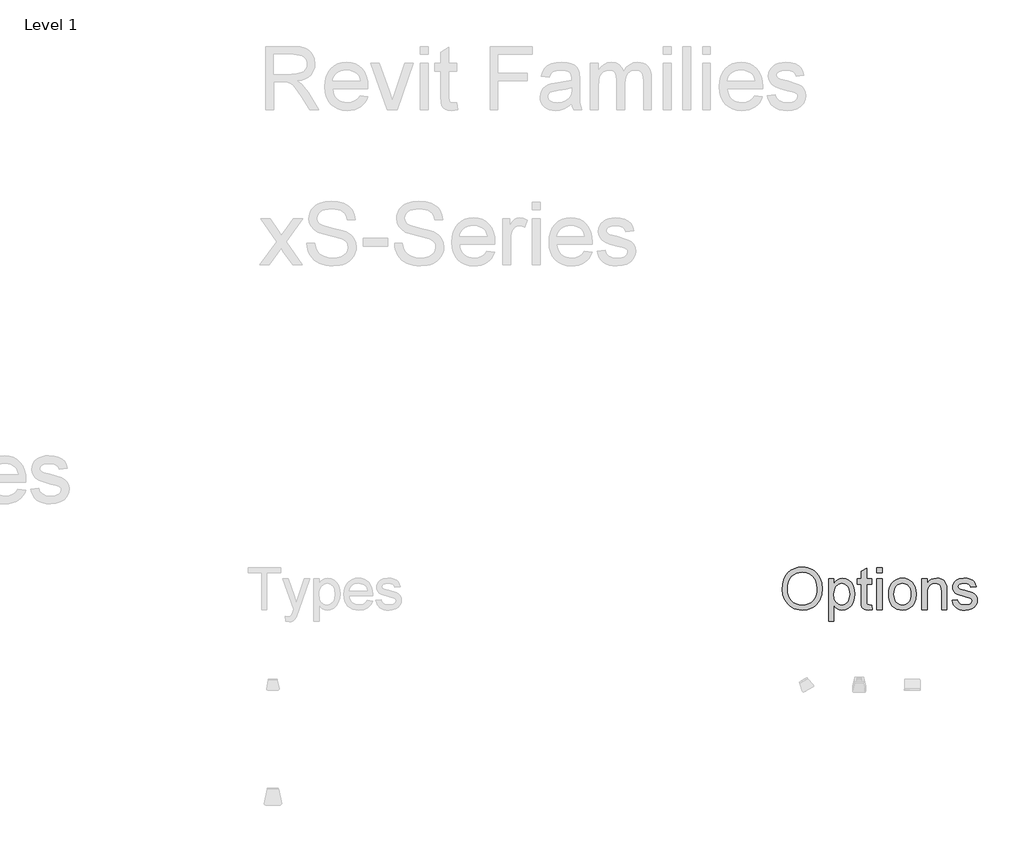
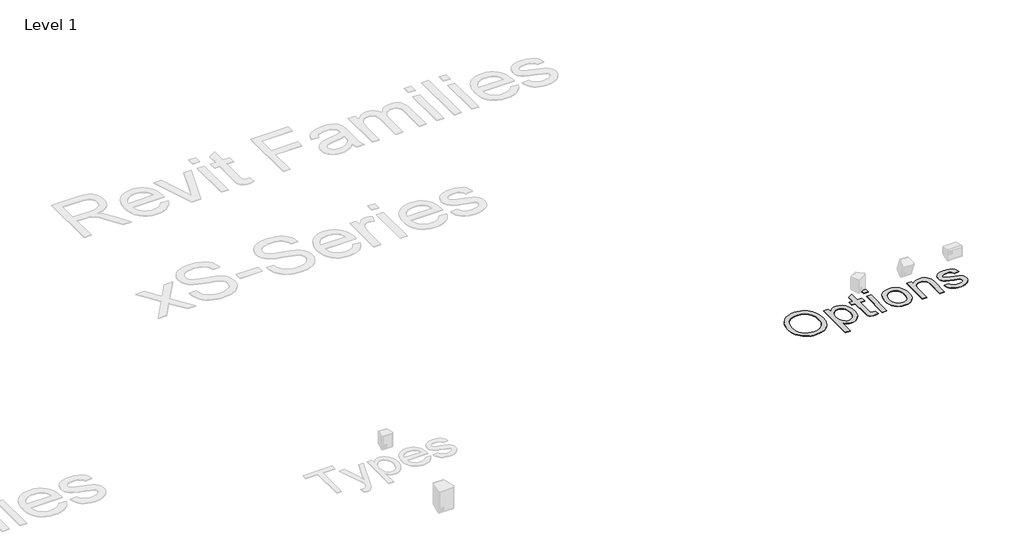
# One storey, part 12 of 12: 2 proxies.
"""IFC4 building model written with IfcOpenShell, lengths in millimetres."""

from ifc_helpers import new_model, si_unit, origin, origin_with_axes, place, context, project, spatial, polyline, outline, extrude, element, save

model = new_model("IFC4")

# Units and contexts
model_context = context("Model", 3, world=origin())
ifc_project = project(units=[si_unit("LENGTHUNIT", "METRE", prefix="MILLI")], contexts=[model_context])

# Site, building, storey
site = spatial("IfcSite", under=ifc_project)
building = spatial("IfcBuilding", under=site)
storey = spatial("IfcBuildingStorey", under=building, Name="Level 1", Elevation=0.0)

# Proxies
placement = place(None, origin())
element("IfcBuildingElementProxy", 1, Name="400mm Arial", ObjectType="400mm Arial", at=placement, inside=storey, context=model_context, shape_type="SweptSolid", body=[
    extrude(outline(polyline([(-6462.261333, 17542.0194987), (-6458.9974836, 17587.9704339), (-6449.2059353, 17628.6489968), (-6432.8866881, 17664.0551876), (-6410.0397421, 17694.1890063), (-6382.0340011, 17718.2494348), (-6350.238369, 17735.4354552), (-6314.6528458, 17745.7470674), (-6275.2774315, 17749.1842715), (-6248.9215484, 17747.57028), (-6223.892725, 17742.7283055), (-6200.1909613, 17734.6583482), (-6177.8162572, 17723.3604078), (-6157.3962762, 17709.1752161), (-6139.5586815, 17692.4435044), (-6124.3034732, 17673.1652729), (-6111.6306512, 17651.3405215), (-6101.671726, 17627.4654031), (-6094.558208, 17602.0360707), (-6088.8673936, 17546.5147639), (-6094.8570953, 17490.2522165), (-6102.3442224, 17464.4701971), (-6112.8262004, 17440.2543472), (-6126.0549528, 17418.2442857), (-6141.7824031, 17399.0796313), (-6160.0085513, 17382.7603841), (-6180.7333974, 17369.2865442), (-6226.4153339, 17351.2098396), (-6275.5643633, 17345.1842715), (-6302.3805328, 17346.8490738), (-6327.7381322, 17351.8434807), (-6351.6371616, 17360.1674923), (-6374.0776209, 17371.8211086), (-6394.473691, 17386.3530096), (-6412.2395527, 17403.3118756), (-6427.3752061, 17422.6977066), (-6439.8806512, 17444.5105025), (-6456.6661625, 17491.91403), (-6462.261333, 17542.0194987)]), holes=[polyline([(-6413.291636, 17541.541279), (-6410.843749, 17509.0761393), (-6403.5000877, 17480.2574249), (-6391.2606524, 17455.0851356), (-6374.1254429, 17433.5592715), (-6353.2959862, 17416.3194514), (-6329.9738093, 17404.0052942), (-6304.1589123, 17396.6167999), (-6275.8512951, 17394.1539684), (-6247.0594805, 17396.6407108), (-6220.9397184, 17404.1009381), (-6197.4920089, 17416.5346502), (-6176.7163519, 17433.9418472), (-6159.7066751, 17455.92202), (-6147.5569059, 17482.0746597), (-6140.2670444, 17512.3997662), (-6137.8370906, 17546.8973396), (-6141.9976019, 17590.2479552), (-6154.479136, 17627.7164684), (-6174.9588946, 17658.3583955), (-6203.1140792, 17681.2292525), (-6237.0796332, 17695.468244), (-6274.9904997, 17700.2145745), (-6302.3147776, 17697.9280866), (-6327.6663993, 17691.0686228), (-6351.0453647, 17679.6361831), (-6372.4516739, 17663.6307677), (-6390.3191573, 17642.2812471), (-6403.0816455, 17614.8164921), (-6410.7391384, 17581.2365027), (-6413.291636, 17541.541279)])]), origin_with_axes(), (0.0, 0.0, 1.0), 5.0),
    extrude(outline(polyline([(-6027.6552724, 17241.1236654), (-6027.6552724, 17639.0024533), (-5978.6855754, 17639.0024533), (-5978.6855754, 17590.9891957), (-5962.7130375, 17614.6730262), (-5944.8276209, 17631.590048), (-5923.9772421, 17641.740261), (-5899.1098179, 17645.1236654), (-5865.9931038, 17640.3892904), (-5837.0369012, 17626.1861654), (-5813.4606701, 17603.3750858), (-5796.4838709, 17572.8168472), (-5786.2260584, 17536.7351711), (-5782.8067875, 17497.353779), (-5786.6684116, 17455.4736891), (-5798.2532838, 17418.0171313), (-5817.1907838, 17386.885029), (-5843.1102913, 17363.9783055), (-5873.2979097, 17349.88278), (-5905.0397421, 17345.1842715), (-5927.5519343, 17348.328566), (-5947.6491171, 17357.7614495), (-5964.8530707, 17372.000441), (-5978.6855754, 17389.5630593), (-5978.6855754, 17241.1236654), (-6027.6552724, 17241.1236654)]), holes=[polyline([(-5978.6855754, 17492.8585139), (-5973.3892923, 17448.9579457), (-5966.7689384, 17431.9572355), (-5957.5004429, 17418.2562411), (-5934.0557222, 17400.1795366), (-5920.6386708, 17395.6603605), (-5906.0918254, 17394.1539684), (-5891.3357589, 17395.7141602), (-5877.6736199, 17400.3947355), (-5853.6311247, 17419.1170366), (-5844.0697196, 17433.3141839), (-5837.2401446, 17450.9425574), (-5831.7764845, 17496.4929836), (-5837.1086341, 17540.1544419), (-5843.7738212, 17557.2866625), (-5853.105083, 17571.2865442), (-5876.5139372, 17589.9371124), (-5889.778556, 17594.5997544), (-5904.0833027, 17596.1539684), (-5918.3432163, 17594.5011216), (-5931.7602677, 17589.5425811), (-5956.0657838, 17569.7084192), (-5965.9619426, 17554.9882191), (-5973.0306275, 17537.2731682), (-5977.2718384, 17516.5632665), (-5978.6855754, 17492.8585139)])]), origin_with_axes(), (0.0, 0.0, 1.0), 5.0),
    extrude(outline(polyline([(-5623.6552724, 17392.1454457), (-5617.5340603, 17349.8708245), (-5654.1656891, 17345.1842715), (-5677.6701872, 17347.2167052), (-5695.1969391, 17353.3140063), (-5707.5828292, 17362.7110233), (-5715.6647421, 17374.6426048), (-5720.1121853, 17395.1343188), (-5721.5946663, 17430.2117336), (-5721.5946663, 17590.0327563), (-5758.3219391, 17590.0327563), (-5758.3219391, 17639.0024533), (-5721.5946663, 17639.0024533), (-5721.5946663, 17708.918173), (-5672.6249694, 17737.7069987), (-5672.6249694, 17639.0024533), (-5623.6552724, 17639.0024533), (-5623.6552724, 17590.0327563), (-5672.6249694, 17590.0327563), (-5672.6249694, 17431.6463927), (-5670.042583, 17406.3963927), (-5661.6737383, 17397.4536843), (-5644.9838709, 17394.1539684), (-5623.6552724, 17392.1454457)])), origin_with_axes(), (0.0, 0.0, 1.0), 5.0),
    extrude(outline(polyline([(-5574.6855754, 17351.3054836), (-5574.6855754, 17639.0024533), (-5525.7158785, 17639.0024533), (-5525.7158785, 17351.3054836), (-5574.6855754, 17351.3054836)])), origin_with_axes(), (0.0, 0.0, 1.0), 5.0),
    extrude(outline(polyline([(-5574.6855754, 17694.0933624), (-5574.6855754, 17743.0630593), (-5525.7158785, 17743.0630593), (-5525.7158785, 17694.0933624), (-5574.6855754, 17694.0933624)])), origin_with_axes(), (0.0, 0.0, 1.0), 5.0),
    extrude(outline(polyline([(-5464.5037572, 17495.1539684), (-5461.8556157, 17532.4132606), (-5453.911191, 17564.5197355), (-5440.6704831, 17591.4733931), (-5422.1334921, 17613.2742336), (-5403.4709684, 17627.20836), (-5382.871655, 17637.1613074), (-5360.3355518, 17643.1330759), (-5335.8626588, 17645.1236654), (-5308.8462348, 17642.6996893), (-5284.4181749, 17635.427761), (-5262.5784791, 17623.3078806), (-5243.3271474, 17606.340048), (-5227.6146415, 17585.0981268), (-5216.391423, 17560.1559807), (-5209.6574919, 17531.5136098), (-5207.4128482, 17499.1710139), (-5211.3820716, 17449.6991862), (-5223.2897421, 17412.0393851), (-5242.7891502, 17383.8363785), (-5269.5335868, 17362.7349343), (-5301.2993302, 17349.5719372), (-5335.8626588, 17345.1842715), (-5363.273614, 17347.5992809), (-5387.9288283, 17354.8443093), (-5409.8283015, 17366.9193567), (-5428.9720338, 17383.824423), (-5444.5171628, 17405.2725764), (-5455.6208264, 17430.9768851), (-5462.2830245, 17460.9373491), (-5464.5037572, 17495.1539684)]), holes=[polyline([(-5415.5340603, 17495.2496124), (-5414.1173344, 17471.4970378), (-5409.8671569, 17450.9306019), (-5402.7835276, 17433.5503048), (-5392.8664466, 17419.3561465), (-5380.8033548, 17408.3301936), (-5367.2816929, 17400.4545129), (-5352.3014608, 17395.7291045), (-5335.8626588, 17394.1539684), (-5319.5075451, 17395.7380712), (-5304.5870906, 17400.4903794), (-5291.1012951, 17408.4108931), (-5279.0501588, 17419.4996124), (-5269.1330778, 17433.8342478), (-5262.0494485, 17451.4925101), (-5257.799271, 17472.4743993), (-5256.3825451, 17496.7799154), (-5257.8082376, 17519.7792939), (-5262.085315, 17539.8077326), (-5269.2137774, 17556.8652314), (-5279.1936247, 17570.9517904), (-5291.2895941, 17581.9777433), (-5304.766423, 17589.8534239), (-5319.6241112, 17594.5788323), (-5335.8626588, 17596.1539684), (-5352.3014608, 17594.58481), (-5367.2816929, 17589.8773349), (-5380.8033548, 17582.031543), (-5392.8664466, 17571.0474343), (-5402.7835276, 17556.8951202), (-5409.8671569, 17539.5447118), (-5414.1173344, 17518.9962092), (-5415.5340603, 17495.2496124)])]), origin_with_axes(), (0.0, 0.0, 1.0), 5.0),
    extrude(outline(polyline([(-5152.3219391, 17351.3054836), (-5152.3219391, 17639.0024533), (-5103.3522421, 17639.0024533), (-5103.3522421, 17598.8319987), (-5086.3395764, 17619.0846029), (-5065.9076398, 17633.5507487), (-5042.0564324, 17642.2304362), (-5014.7859542, 17645.1236654), (-4990.647815, 17642.7923444), (-4968.5421095, 17635.7983813), (-4950.1067402, 17625.0145271), (-4936.9796095, 17611.3135328), (-4928.0727677, 17594.7312648), (-4922.2982648, 17575.3035896), (-4919.7158785, 17527.9598396), (-4919.7158785, 17351.3054836), (-4968.6855754, 17351.3054836), (-4968.6855754, 17521.3604078), (-4970.0963235, 17546.6821408), (-4974.3285679, 17564.6871124), (-4982.1355044, 17577.5870887), (-4994.2703292, 17587.5938358), (-5009.8244249, 17594.0139353), (-5027.8891739, 17596.1539684), (-5056.5704002, 17591.3478605), (-5081.0193822, 17576.9295366), (-5090.7900084, 17565.1593543), (-5097.7690271, 17549.0732393), (-5101.9564384, 17528.6711914), (-5103.3522421, 17503.9532108), (-5103.3522421, 17351.3054836), (-5152.3219391, 17351.3054836)])), origin_with_axes(), (0.0, 0.0, 1.0), 5.0),
    extrude(outline(polyline([(-4870.7461815, 17437.0024533), (-4821.7764845, 17443.1236654), (-4814.0532364, 17422.1776427), (-4799.1088709, 17406.7789684), (-4776.847744, 17397.3102184), (-4747.1742118, 17394.1539684), (-4717.8593444, 17397.0471976), (-4697.2480754, 17405.7268851), (-4685.0534732, 17418.3040631), (-4680.9886057, 17432.8897639), (-4685.0773841, 17445.371298), (-4697.3437194, 17454.8878699), (-4747.7480754, 17468.8518851), (-4821.4895527, 17492.8106919), (-4840.1520764, 17504.8498728), (-4853.6737383, 17520.7865442), (-4861.8871616, 17539.6044893), (-4864.6249694, 17560.2874911), (-4862.4251588, 17579.2608576), (-4855.8257269, 17596.775654), (-4845.4244485, 17612.1384618), (-4831.8190982, 17624.6558624), (-4800.6869959, 17639.1459192), (-4758.5558406, 17645.1236654), (-4726.6824978, 17642.7206114), (-4698.9696663, 17635.5114495), (-4676.6846285, 17624.2015536), (-4661.0946663, 17609.496298), (-4650.7651209, 17590.3077326), (-4644.261333, 17565.5479078), (-4693.23103, 17559.4266957), (-4699.4120196, 17574.8373254), (-4711.6424883, 17586.4461086), (-4730.0419911, 17593.7270035), (-4754.730083, 17596.1539684), (-4782.8494012, 17593.8346029), (-4801.5956133, 17586.8765063), (-4812.1403576, 17576.8338927), (-4815.6552724, 17565.260976), (-4809.8209921, 17551.010029), (-4791.5529997, 17540.2022639), (-4749.3740224, 17529.7770745), (-4677.4976019, 17506.7268851), (-4658.51228, 17495.7039211), (-4644.1178671, 17480.6160896), (-4635.0436483, 17461.4155688), (-4632.0189088, 17438.0545366), (-4635.56969, 17413.9044419), (-4646.2220338, 17391.1890063), (-4663.5694533, 17371.6895982), (-4687.2054618, 17357.1875858), (-4715.7551777, 17348.1851), (-4747.8437194, 17345.1842715), (-4774.1996024, 17346.630886), (-4797.2199031, 17350.9707298), (-4816.9046214, 17358.2038027), (-4833.2537572, 17368.3301048), (-4846.6080423, 17381.3018141), (-4857.308208, 17397.0711086), (-4865.3542544, 17415.6379883), (-4870.7461815, 17437.0024533)])), origin_with_axes(), (0.0, 0.0, 1.0), 5.0),
])
element("IfcBuildingElementProxy", 2, Name="600mm Arial", ObjectType="600mm Arial", at=placement, inside=storey, context=model_context, shape_type="SweptSolid", body=[
    extrude(outline(polyline([(-11309.2935955, 22041.6162982), (-11309.2935955, 22632.385529), (-11054.7262878, 22632.385529), (-10986.3068167, 22628.401154), (-10936.5291724, 22616.448029), (-10917.3194369, 22606.9468271), (-10900.1469609, 22594.3807213), (-10885.0117446, 22578.7497117), (-10871.9137878, 22560.0537982), (-10861.3443768, 22539.2980891), (-10853.7947974, 22517.4876924), (-10847.755134, 22470.7028367), (-10850.2566364, 22440.3602886), (-10857.7611436, 22412.5057213), (-10870.2686556, 22387.1391347), (-10887.7791724, 22364.260529), (-10910.5180547, 22344.6000722), (-10938.7106628, 22328.8879328), (-10972.356997, 22317.1241107), (-11011.4570571, 22309.3086059), (-10987.1181148, 22293.4071636), (-10969.4859032, 22277.7220674), (-10909.630134, 22201.7124521), (-10811.1205186, 22041.6162982), (-10896.9378263, 22041.6162982), (-10973.8128263, 22164.0682213), (-11029.3416724, 22245.1259136), (-11049.9847013, 22268.7617309), (-11068.3560955, 22283.4191828), (-11103.4762878, 22297.4816828), (-11146.3128263, 22300.0778367), (-11235.4474417, 22300.0778367), (-11235.4474417, 22041.6162982), (-11309.2935955, 22041.6162982)]), holes=[polyline([(-11235.4474417, 22373.9239905), (-11070.1589801, 22373.9239905), (-11022.6890282, 22376.5381732), (-10985.8560955, 22384.3807213), (-10958.1277301, 22397.9744713), (-10937.9714801, 22417.8422597), (-10925.6938359, 22441.8747117), (-10921.6012878, 22467.9624521), (-10923.5529104, 22486.8476684), (-10929.4077782, 22503.9840867), (-10939.1658912, 22519.3717069), (-10952.8272494, 22533.010529), (-10970.7073575, 22544.1793992), (-10993.1217205, 22552.1571636), (-11020.0703383, 22556.9438222), (-11051.5532109, 22558.5393751), (-11235.4474417, 22558.5393751), (-11235.4474417, 22373.9239905)])]), origin_with_axes(), (0.0, 0.0, 1.0), 5.0),
    extrude(outline(polyline([(-10424.005134, 22170.8470674), (-10351.6012878, 22161.6162982), (-10362.7025498, 22132.6168992), (-10377.6890282, 22107.0610097), (-10396.5607229, 22084.9486299), (-10419.317634, 22066.2797597), (-10445.7253864, 22051.4510338), (-10475.5496051, 22040.8590867), (-10508.7902902, 22034.5039184), (-10545.4474417, 22032.385529), (-10591.2677542, 22036.0408775), (-10632.0940763, 22047.0069232), (-10667.926408, 22065.283666), (-10698.7647494, 22090.8711059), (-10723.5634273, 22123.0571035), (-10741.2767686, 22161.1295194), (-10751.9047734, 22205.0883535), (-10755.4474417, 22254.9336059), (-10751.8687157, 22306.4690626), (-10741.1325378, 22351.8927405), (-10723.238908, 22391.2046396), (-10698.1878263, 22424.4047597), (-10667.4306148, 22450.7809617), (-10632.4185955, 22469.6211059), (-10593.1517686, 22480.9251924), (-10549.630134, 22484.6932213), (-10507.5102422, 22480.9342069), (-10469.4197974, 22469.6571636), (-10435.3587998, 22450.8620915), (-10405.3272494, 22424.5489905), (-10380.8125258, 22391.4209857), (-10363.302009, 22352.1812021), (-10352.7956989, 22306.8296396), (-10349.2935955, 22255.3662982), (-10349.7262878, 22235.4624521), (-10681.6012878, 22235.4624521), (-10677.3239441, 22205.994303), (-10668.8188359, 22180.1860097), (-10656.0859633, 22158.0375722), (-10639.1253263, 22139.5489905), (-10618.8744248, 22124.9726684), (-10596.270759, 22114.5610097), (-10571.3143287, 22108.3140146), (-10544.005134, 22106.2316828), (-10504.7022494, 22110.0898559), (-10471.6012878, 22121.6643751), (-10444.7022494, 22141.6763944), (-10424.005134, 22170.8470674)]), holes=[polyline([(-10681.6012878, 22309.3086059), (-10423.1397494, 22309.3086059), (-10433.1277301, 22348.323029), (-10441.7184753, 22363.6655771), (-10452.7070571, 22376.2316828), (-10472.8452782, 22391.3759136), (-10495.7599417, 22402.1932213), (-10521.4510474, 22408.6836059), (-10549.9185955, 22410.8470674), (-10575.8846412, 22409.1208054), (-10599.6962398, 22403.9420194), (-10621.3533912, 22395.3107093), (-10640.8560955, 22383.2268751), (-10657.2217806, 22368.2494112), (-10669.4678744, 22350.9372117), (-10677.5943768, 22331.2902766), (-10681.6012878, 22309.3086059)])]), origin_with_axes(), (0.0, 0.0, 1.0), 5.0),
    extrude(outline(polyline([(-10169.005134, 22041.6162982), (-10321.6012878, 22475.4624521), (-10243.4282109, 22475.4624521), (-10150.9762878, 22215.5586059), (-10123.1397494, 22128.1547597), (-10095.880134, 22210.6547597), (-10002.8512878, 22475.4624521), (-9924.6782109, 22475.4624521), (-10075.3993648, 22041.6162982), (-10169.005134, 22041.6162982)])), origin_with_axes(), (0.0, 0.0, 1.0), 5.0),
    extrude(outline(polyline([(-9860.0628263, 22041.6162982), (-9860.0628263, 22475.4624521), (-9786.2166724, 22475.4624521), (-9786.2166724, 22041.6162982), (-9860.0628263, 22041.6162982)])), origin_with_axes(), (0.0, 0.0, 1.0), 5.0),
    extrude(outline(polyline([(-9860.0628263, 22558.5393751), (-9860.0628263, 22632.385529), (-9786.2166724, 22632.385529), (-9786.2166724, 22558.5393751), (-9860.0628263, 22558.5393751)])), origin_with_axes(), (0.0, 0.0, 1.0), 5.0),
    extrude(outline(polyline([(-9518.5243648, 22103.2028367), (-9509.2935955, 22039.4528367), (-9564.5339801, 22032.385529), (-9599.9786917, 22035.4504328), (-9626.4089801, 22044.6451444), (-9645.0868648, 22058.8158174), (-9657.2743648, 22076.8086059), (-9663.9810955, 22107.7100482), (-9666.2166724, 22160.6066828), (-9666.2166724, 22401.6162982), (-9721.6012878, 22401.6162982), (-9721.6012878, 22475.4624521), (-9666.2166724, 22475.4624521), (-9666.2166724, 22580.8951444), (-9592.3705186, 22624.3086059), (-9592.3705186, 22475.4624521), (-9518.5243648, 22475.4624521), (-9518.5243648, 22401.6162982), (-9592.3705186, 22401.6162982), (-9592.3705186, 22162.7701444), (-9588.4762878, 22124.6932213), (-9575.8560955, 22111.2076444), (-9565.2010474, 22107.4756732), (-9550.6878263, 22106.2316828), (-9518.5243648, 22103.2028367)])), origin_with_axes(), (0.0, 0.0, 1.0), 5.0),
    extrude(outline(polyline([(-9204.6782109, 22041.6162982), (-9204.6782109, 22632.385529), (-8807.755134, 22632.385529), (-8807.755134, 22558.5393751), (-9130.8320571, 22558.5393751), (-9130.8320571, 22383.1547597), (-8853.9089801, 22383.1547597), (-8853.9089801, 22309.3086059), (-9130.8320571, 22309.3086059), (-9130.8320571, 22041.6162982), (-9204.6782109, 22041.6162982)])), origin_with_axes(), (0.0, 0.0, 1.0), 5.0),
    extrude(outline(polyline([(-8438.5243648, 22097.0009136), (-8473.8068167, 22066.7485097), (-8510.1349417, 22046.9528367), (-8548.3380667, 22036.0273559), (-8589.2455186, 22032.385529), (-8622.1256268, 22034.5760338), (-8650.958259, 22041.1475482), (-8675.7434152, 22052.1000722), (-8696.4810955, 22067.4336059), (-8712.855795, 22086.1745915), (-8724.552009, 22107.3494713), (-8731.5697373, 22130.9582453), (-8733.9089801, 22157.0009136), (-8730.3753263, 22187.6138944), (-8719.7743648, 22215.4143751), (-8703.4222013, 22239.2124521), (-8682.6349417, 22257.8182213), (-8658.2058551, 22271.8807213), (-8630.9282109, 22282.0489905), (-8567.0339801, 22293.1547597), (-8491.5291724, 22304.8374521), (-8438.9570571, 22318.5393751), (-8438.5243648, 22334.9816828), (-8443.6084994, 22367.9384136), (-8449.9636676, 22380.1439424), (-8458.8609032, 22389.5009136), (-8474.239509, 22398.8398559), (-8492.9714801, 22405.510529), (-8540.4955186, 22410.8470674), (-8584.4859032, 22407.2953847), (-8615.2070571, 22396.6403367), (-8636.1565763, 22376.9348078), (-8650.8320571, 22346.2316828), (-8724.6782109, 22355.4624521), (-8711.8597013, 22395.8470674), (-8692.7310955, 22427.5778367), (-8665.5075378, 22451.8446636), (-8628.4041724, 22469.8374521), (-8583.0255667, 22480.979279), (-8530.9762878, 22484.6932213), (-8481.0544128, 22481.4119713), (-8441.4810955, 22471.5682213), (-8411.6433551, 22456.7665386), (-8390.9282109, 22438.6114905), (-8377.1902301, 22416.1655771), (-8368.2839801, 22388.4912982), (-8364.6782109, 22323.8759136), (-8364.6782109, 22232.0009136), (-8360.9282109, 22103.7076444), (-8355.3753263, 22071.994904), (-8346.2166724, 22041.6162982), (-8420.0628263, 22041.6162982), (-8431.8897494, 22067.2893751), (-8438.5243648, 22097.0009136)]), holes=[polyline([(-8438.5243648, 22244.6932213), (-8488.1397494, 22232.3975482), (-8557.6589801, 22222.0489905), (-8621.192634, 22210.0778367), (-8637.7250859, 22201.8927405), (-8649.9666724, 22190.6066828), (-8657.5387878, 22177.0850482), (-8660.0628263, 22162.1932213), (-8654.5640282, 22140.2340867), (-8638.067634, 22122.2412982), (-8610.9342205, 22110.2340867), (-8573.5243648, 22106.2316828), (-8533.8609032, 22110.6487501), (-8498.8128263, 22123.8999521), (-8470.3993648, 22143.4251924), (-8450.6397494, 22166.6643751), (-8441.8777301, 22190.6066828), (-8438.9570571, 22223.7797597), (-8438.5243648, 22244.6932213)])]), origin_with_axes(), (0.0, 0.0, 1.0), 5.0),
    extrude(outline(polyline([(-8263.1397494, 22041.6162982), (-8263.1397494, 22475.4624521), (-8189.2935955, 22475.4624521), (-8189.2935955, 22404.0682213), (-8167.0820571, 22436.8626924), (-8138.5243648, 22462.5537982), (-8104.5940763, 22479.1583655), (-8066.2647494, 22484.6932213), (-8025.1950378, 22479.0501924), (-8007.7160715, 22471.9964064), (-7992.2743648, 22462.1211059), (-7967.6830186, 22435.0237501), (-7951.6012878, 22398.8759136), (-7924.6842205, 22436.4209857), (-7893.9810955, 22463.2388944), (-7859.4919128, 22479.3296396), (-7821.2166724, 22484.6932213), (-7791.653872, 22482.4621516), (-7765.7058551, 22475.7689424), (-7743.372622, 22464.6135939), (-7724.6541724, 22448.9961059), (-7709.856997, 22428.73619), (-7699.2875859, 22403.6535578), (-7692.9459393, 22373.7482093), (-7690.8320571, 22339.0201444), (-7690.8320571, 22041.6162982), (-7764.6782109, 22041.6162982), (-7764.6782109, 22307.2893751), (-7766.3909513, 22344.1223078), (-7771.5291724, 22368.948029), (-7781.1565763, 22385.9492309), (-7796.3368648, 22399.3086059), (-7815.8621051, 22407.9624521), (-7838.5243648, 22410.8470674), (-7859.4513479, 22408.9991107), (-7878.5303744, 22403.4552405), (-7895.7614441, 22394.2154569), (-7911.1445571, 22381.2797597), (-7923.7962998, 22364.2695434), (-7932.833259, 22342.8062021), (-7938.2554345, 22316.8897357), (-7940.0628263, 22286.5201444), (-7940.0628263, 22041.6162982), (-8013.9089801, 22041.6162982), (-8013.9089801, 22315.510529), (-8018.1818167, 22357.2653367), (-8031.0003263, 22387.0489905), (-8040.9116845, 22397.4606492), (-8053.5544128, 22404.8975482), (-8068.9285114, 22409.3596876), (-8087.0339801, 22410.8470674), (-8115.4834994, 22406.8807213), (-8141.6974417, 22394.9816828), (-8163.3320571, 22375.4384136), (-8178.0435955, 22348.5393751), (-8186.4810955, 22311.2196636), (-8189.2935955, 22260.4143751), (-8189.2935955, 22041.6162982), (-8263.1397494, 22041.6162982)])), origin_with_axes(), (0.0, 0.0, 1.0), 5.0),
    extrude(outline(polyline([(-7580.0628263, 22041.6162982), (-7580.0628263, 22475.4624521), (-7506.2166724, 22475.4624521), (-7506.2166724, 22041.6162982), (-7580.0628263, 22041.6162982)])), origin_with_axes(), (0.0, 0.0, 1.0), 5.0),
    extrude(outline(polyline([(-7580.0628263, 22558.5393751), (-7580.0628263, 22632.385529), (-7506.2166724, 22632.385529), (-7506.2166724, 22558.5393751), (-7580.0628263, 22558.5393751)])), origin_with_axes(), (0.0, 0.0, 1.0), 5.0),
    extrude(outline(polyline([(-7395.4474417, 22041.6162982), (-7395.4474417, 22632.385529), (-7321.6012878, 22632.385529), (-7321.6012878, 22041.6162982), (-7395.4474417, 22041.6162982)])), origin_with_axes(), (0.0, 0.0, 1.0), 5.0),
    extrude(outline(polyline([(-7210.8320571, 22041.6162982), (-7210.8320571, 22475.4624521), (-7136.9859032, 22475.4624521), (-7136.9859032, 22041.6162982), (-7210.8320571, 22041.6162982)])), origin_with_axes(), (0.0, 0.0, 1.0), 5.0),
    extrude(outline(polyline([(-7210.8320571, 22558.5393751), (-7210.8320571, 22632.385529), (-7136.9859032, 22632.385529), (-7136.9859032, 22558.5393751), (-7210.8320571, 22558.5393751)])), origin_with_axes(), (0.0, 0.0, 1.0), 5.0),
    extrude(outline(polyline([(-6722.4666724, 22170.8470674), (-6650.0628263, 22161.6162982), (-6661.1640883, 22132.6168992), (-6676.1505667, 22107.0610097), (-6695.0222614, 22084.9486299), (-6717.7791724, 22066.2797597), (-6744.1869248, 22051.4510338), (-6774.0111436, 22040.8590867), (-6807.2518287, 22034.5039184), (-6843.9089801, 22032.385529), (-6889.7292926, 22036.0408775), (-6930.5556148, 22047.0069232), (-6966.3879465, 22065.283666), (-6997.2262878, 22090.8711059), (-7022.0249657, 22123.0571035), (-7039.7383071, 22161.1295194), (-7050.3663119, 22205.0883535), (-7053.9089801, 22254.9336059), (-7050.3302542, 22306.4690626), (-7039.5940763, 22351.8927405), (-7021.7004465, 22391.2046396), (-6996.6493648, 22424.4047597), (-6965.8921532, 22450.7809617), (-6930.880134, 22469.6211059), (-6891.6133071, 22480.9251924), (-6848.0916724, 22484.6932213), (-6805.9717806, 22480.9342069), (-6767.8813359, 22469.6571636), (-6733.8203383, 22450.8620915), (-6703.7887878, 22424.5489905), (-6679.2740643, 22391.4209857), (-6661.7635474, 22352.1812021), (-6651.2572373, 22306.8296396), (-6647.755134, 22255.3662982), (-6648.1878263, 22235.4624521), (-6980.0628263, 22235.4624521), (-6975.7854825, 22205.994303), (-6967.2803744, 22180.1860097), (-6954.5475018, 22158.0375722), (-6937.5868648, 22139.5489905), (-6917.3359633, 22124.9726684), (-6894.7322974, 22114.5610097), (-6869.7758672, 22108.3140146), (-6842.4666724, 22106.2316828), (-6803.1637878, 22110.0898559), (-6770.0628263, 22121.6643751), (-6743.1637878, 22141.6763944), (-6722.4666724, 22170.8470674)]), holes=[polyline([(-6980.0628263, 22309.3086059), (-6721.6012878, 22309.3086059), (-6731.5892686, 22348.323029), (-6740.1800138, 22363.6655771), (-6751.1685955, 22376.2316828), (-6771.3068167, 22391.3759136), (-6794.2214801, 22402.1932213), (-6819.9125859, 22408.6836059), (-6848.380134, 22410.8470674), (-6874.3461797, 22409.1208054), (-6898.1577782, 22403.9420194), (-6919.8149297, 22395.3107093), (-6939.317634, 22383.2268751), (-6955.6833191, 22368.2494112), (-6967.9294128, 22350.9372117), (-6976.0559152, 22331.2902766), (-6980.0628263, 22309.3086059)])]), origin_with_axes(), (0.0, 0.0, 1.0), 5.0),
    extrude(outline(polyline([(-6601.6012878, 22170.8470674), (-6527.755134, 22180.0778367), (-6523.2929946, 22163.2388944), (-6516.1084994, 22148.4912982), (-6506.2016484, 22135.8350482), (-6493.5724417, 22125.2701444), (-6478.1848215, 22116.9408174), (-6460.0027301, 22110.9912982), (-6415.255134, 22106.2316828), (-6371.0484032, 22110.5946636), (-6353.8669128, 22116.0483896), (-6339.9666724, 22123.6836059), (-6321.5772494, 22142.6499521), (-6315.4474417, 22164.6451444), (-6316.988908, 22174.6150963), (-6321.6133071, 22183.4672597), (-6340.1109032, 22197.8182213), (-6367.7671532, 22207.1932213), (-6416.1205186, 22218.8759136), (-6483.5123455, 22238.3650963), (-6527.3224417, 22255.0057213), (-6555.4654705, 22273.1607694), (-6575.8560955, 22297.1932213), (-6588.2419128, 22325.5706251), (-6592.3705186, 22356.760529), (-6589.0532109, 22385.3723078), (-6579.1012878, 22411.7845674), (-6563.4161917, 22434.9516347), (-6542.8993648, 22453.8278367), (-6522.5087398, 22465.7088463), (-6495.9522494, 22475.6787982), (-6465.2491244, 22482.4396155), (-6432.4185955, 22484.6932213), (-6384.3536917, 22481.0694232), (-6342.5628263, 22470.198029), (-6308.9570571, 22453.1427405), (-6285.4474417, 22430.9672597), (-6269.8705186, 22402.0309617), (-6260.0628263, 22364.6932213), (-6333.9089801, 22355.4624521), (-6343.2298936, 22378.7016347), (-6361.6734032, 22396.2076444), (-6389.4197974, 22407.1872117), (-6426.6493648, 22410.8470674), (-6469.0532109, 22407.3494713), (-6497.3224417, 22396.8566828), (-6513.223884, 22381.7124521), (-6518.5243648, 22364.260529), (-6516.3248455, 22352.9023559), (-6509.7262878, 22342.7701444), (-6498.4402301, 22333.7196636), (-6482.1782109, 22326.4720674), (-6418.5724417, 22310.7509136), (-6310.1830186, 22275.9912982), (-6281.5532109, 22259.3687021), (-6259.8464801, 22236.6162982), (-6246.1625859, 22207.6619713), (-6241.6012878, 22172.4336059), (-6246.9558551, 22136.0153367), (-6263.0195571, 22101.760529), (-6289.1794128, 22072.3554809), (-6324.8224417, 22050.4864905), (-6367.8753263, 22036.9107694), (-6416.2647494, 22032.385529), (-6456.0093407, 22034.5670194), (-6490.723884, 22041.1114905), (-6520.4083792, 22052.0189424), (-6545.0628263, 22067.2893751), (-6565.2010474, 22086.8506732), (-6581.3368648, 22110.6307213), (-6593.4702782, 22138.6295194), (-6601.6012878, 22170.8470674)])), origin_with_axes(), (0.0, 0.0, 1.0), 5.0),
    extrude(outline(polyline([(-11364.6782109, 20583.1547597), (-11206.8897494, 20801.2316828), (-11355.4474417, 21017.0009136), (-11266.6012878, 21017.0009136), (-11194.9185955, 20913.1547597), (-11161.4570571, 20864.1162982), (-11132.4666724, 20904.2124521), (-11050.8320571, 21017.0009136), (-10961.9859032, 21017.0009136), (-11118.0435955, 20801.2316828), (-10967.755134, 20583.1547597), (-11056.6012878, 20583.1547597), (-11147.0339801, 20714.260529), (-11163.6205186, 20738.2028367), (-11275.8320571, 20583.1547597), (-11364.6782109, 20583.1547597)])), origin_with_axes(), (0.0, 0.0, 1.0), 5.0),
    extrude(outline(polyline([(-10921.6012878, 20786.2316828), (-10847.755134, 20786.2316828), (-10839.2815763, 20745.2521155), (-10823.9570571, 20712.3134136), (-10800.0508071, 20686.1715867), (-10765.8320571, 20665.5826444), (-10724.005134, 20652.2232694), (-10677.2743648, 20647.7701444), (-10636.1325378, 20651.1415386), (-10600.1109032, 20661.2557213), (-10570.9222013, 20677.2653367), (-10550.2791724, 20698.323029), (-10538.0015282, 20722.4997117), (-10533.9089801, 20747.8662982), (-10536.973884, 20772.5838463), (-10546.1685955, 20793.948029), (-10564.8464801, 20812.1751924), (-10596.3609032, 20827.4816828), (-10703.8849417, 20855.6787982), (-10774.4678744, 20874.338654), (-10819.630134, 20892.0970674), (-10856.3909513, 20916.9408174), (-10882.442634, 20947.0489905), (-10897.9654705, 20981.7725482), (-10903.1397494, 21020.4624521), (-10901.5396893, 21042.4531372), (-10896.739509, 21063.713654), (-10888.7392085, 21084.2440025), (-10877.5387878, 21104.0441828), (-10863.2644489, 21122.307404), (-10846.0423936, 21138.2268751), (-10825.872622, 21151.8025963), (-10802.755134, 21163.0345674), (-10750.7959994, 21178.1247117), (-10693.2839801, 21183.1547597), (-10630.9762878, 21177.8903367), (-10576.4570571, 21162.0970674), (-10552.6048936, 21150.3332453), (-10531.6734032, 21136.0994713), (-10513.6625859, 21119.3957453), (-10498.5724417, 21100.2220674), (-10486.520158, 21079.1373319), (-10477.6229224, 21056.7004328), (-10471.8807349, 21032.9113703), (-10469.2935955, 21007.7701444), (-10543.1397494, 21007.7701444), (-10548.0796532, 21031.3338463), (-10556.6974417, 21051.8326444), (-10568.9931148, 21069.2665386), (-10584.9666724, 21083.635529), (-10604.9155907, 21094.8675001), (-10629.1373455, 21102.8903367), (-10657.6319369, 21107.7040386), (-10690.3993648, 21109.3086059), (-10724.2124657, 21107.7220674), (-10753.1036917, 21102.9624521), (-10777.0730426, 21095.0297597), (-10796.1205186, 21083.9239905), (-10810.6337398, 21070.5736299), (-10821.0003263, 21055.9071636), (-10827.2202782, 21039.9245915), (-10829.2935955, 21022.6259136), (-10823.4161917, 20994.2485097), (-10805.7839801, 20971.4239905), (-10789.5940763, 20961.2737501), (-10764.1012878, 20951.0153367), (-10685.2070571, 20930.1739905), (-10603.7887878, 20910.3783174), (-10554.5339801, 20893.1066828), (-10512.4366244, 20866.3158174), (-10496.1610835, 20850.5676203), (-10483.067634, 20833.2509136), (-10473.0030306, 20814.4558415), (-10465.8140282, 20794.2725482), (-10460.0628263, 20749.7412982), (-10461.7169729, 20726.6418391), (-10466.6794128, 20704.2184617), (-10474.950146, 20682.471166), (-10486.5291724, 20661.3999521), (-10501.2136676, 20641.8206251), (-10518.8008071, 20624.5489905), (-10539.2905907, 20609.5850482), (-10562.6830186, 20596.9287982), (-10588.2975018, 20586.8641948), (-10615.4534513, 20579.6751924), (-10674.3897494, 20573.9239905), (-10712.1646893, 20575.4744713), (-10746.739509, 20580.1259136), (-10778.1142085, 20587.8783174), (-10806.2887878, 20598.7316828), (-10831.434521, 20612.7040386), (-10853.7226821, 20629.8134136), (-10873.153271, 20650.0598078), (-10889.7262878, 20673.4432213), (-10903.0766484, 20699.2064424), (-10912.8392686, 20726.5922597), (-10919.0141484, 20755.6006732), (-10921.6012878, 20786.2316828)])), origin_with_axes(), (0.0, 0.0, 1.0), 5.0),
    extrude(outline(polyline([(-10395.4474417, 20758.5393751), (-10395.4474417, 20832.385529), (-10164.6782109, 20832.385529), (-10164.6782109, 20758.5393751), (-10395.4474417, 20758.5393751)])), origin_with_axes(), (0.0, 0.0, 1.0), 5.0),
    extrude(outline(polyline([(-10100.0628263, 20786.2316828), (-10026.2166724, 20786.2316828), (-10017.7431148, 20745.2521155), (-10002.4185955, 20712.3134136), (-9978.5123455, 20686.1715867), (-9944.2935955, 20665.5826444), (-9902.4666724, 20652.2232694), (-9855.7359032, 20647.7701444), (-9814.5940763, 20651.1415386), (-9778.5724417, 20661.2557213), (-9749.3837398, 20677.2653367), (-9728.7407109, 20698.323029), (-9716.4630667, 20722.4997117), (-9712.3705186, 20747.8662982), (-9715.4354224, 20772.5838463), (-9724.630134, 20793.948029), (-9743.3080186, 20812.1751924), (-9774.8224417, 20827.4816828), (-9882.3464801, 20855.6787982), (-9952.9294128, 20874.338654), (-9998.0916724, 20892.0970674), (-10034.8524898, 20916.9408174), (-10060.9041724, 20947.0489905), (-10076.427009, 20981.7725482), (-10081.6012878, 21020.4624521), (-10080.0012277, 21042.4531372), (-10075.2010474, 21063.713654), (-10067.200747, 21084.2440025), (-10056.0003263, 21104.0441828), (-10041.7259873, 21122.307404), (-10024.5039321, 21138.2268751), (-10004.3341604, 21151.8025963), (-9981.2166724, 21163.0345674), (-9929.2575378, 21178.1247117), (-9871.7455186, 21183.1547597), (-9809.4378263, 21177.8903367), (-9754.9185955, 21162.0970674), (-9731.0664321, 21150.3332453), (-9710.1349417, 21136.0994713), (-9692.1241244, 21119.3957453), (-9677.0339801, 21100.2220674), (-9664.9816965, 21079.1373319), (-9656.0844609, 21056.7004328), (-9650.3422734, 21032.9113703), (-9647.755134, 21007.7701444), (-9721.6012878, 21007.7701444), (-9726.5411917, 21031.3338463), (-9735.1589801, 21051.8326444), (-9747.4546532, 21069.2665386), (-9763.4282109, 21083.635529), (-9783.3771292, 21094.8675001), (-9807.598884, 21102.8903367), (-9836.0934753, 21107.7040386), (-9868.8609032, 21109.3086059), (-9902.6740042, 21107.7220674), (-9931.5652301, 21102.9624521), (-9955.5345811, 21095.0297597), (-9974.5820571, 21083.9239905), (-9989.0952782, 21070.5736299), (-9999.4618648, 21055.9071636), (-10005.6818167, 21039.9245915), (-10007.755134, 21022.6259136), (-10001.8777301, 20994.2485097), (-9984.2455186, 20971.4239905), (-9968.0556148, 20961.2737501), (-9942.5628263, 20951.0153367), (-9863.6685955, 20930.1739905), (-9782.2503263, 20910.3783174), (-9732.9955186, 20893.1066828), (-9690.8981628, 20866.3158174), (-9674.622622, 20850.5676203), (-9661.5291724, 20833.2509136), (-9651.4645691, 20814.4558415), (-9644.2755667, 20794.2725482), (-9638.5243648, 20749.7412982), (-9640.1785114, 20726.6418391), (-9645.1409513, 20704.2184617), (-9653.4116845, 20682.471166), (-9664.9907109, 20661.3999521), (-9679.6752061, 20641.8206251), (-9697.2623455, 20624.5489905), (-9717.7521292, 20609.5850482), (-9741.1445571, 20596.9287982), (-9766.7590402, 20586.8641948), (-9793.9149898, 20579.6751924), (-9852.8512878, 20573.9239905), (-9890.6262277, 20575.4744713), (-9925.2010474, 20580.1259136), (-9956.575747, 20587.8783174), (-9984.7503263, 20598.7316828), (-10009.8960595, 20612.7040386), (-10032.1842205, 20629.8134136), (-10051.6148095, 20650.0598078), (-10068.1878263, 20673.4432213), (-10081.5381869, 20699.2064424), (-10091.3008071, 20726.5922597), (-10097.4756869, 20755.6006732), (-10100.0628263, 20786.2316828)])), origin_with_axes(), (0.0, 0.0, 1.0), 5.0),
    extrude(outline(polyline([(-9233.2359032, 20712.385529), (-9160.8320571, 20703.1547597), (-9171.9333191, 20674.1553607), (-9186.9197974, 20648.5994713), (-9205.7914922, 20626.4870915), (-9228.5484032, 20607.8182213), (-9254.9561556, 20592.9894953), (-9284.7803744, 20582.3975482), (-9318.0210595, 20576.0423799), (-9354.6782109, 20573.9239905), (-9400.4985234, 20577.5793391), (-9441.3248455, 20588.5453847), (-9477.1571773, 20606.8221275), (-9507.9955186, 20632.4095674), (-9532.7941965, 20664.595565), (-9550.5075378, 20702.6679809), (-9561.1355426, 20746.626815), (-9564.6782109, 20796.4720674), (-9561.0994849, 20848.0075242), (-9550.3633071, 20893.4312021), (-9532.4696773, 20932.7431011), (-9507.4185955, 20965.9432213), (-9476.661384, 20992.3194232), (-9441.6493648, 21011.1595674), (-9402.3825378, 21022.463654), (-9358.8609032, 21026.2316828), (-9316.7410114, 21022.4726684), (-9278.6505667, 21011.1956251), (-9244.5895691, 20992.400553), (-9214.5580186, 20966.0874521), (-9190.043295, 20932.9594472), (-9172.5327782, 20893.7196636), (-9162.0264681, 20848.3681011), (-9158.5243648, 20796.9047597), (-9158.9570571, 20777.0009136), (-9490.8320571, 20777.0009136), (-9486.5547133, 20747.5327646), (-9478.0496051, 20721.7244713), (-9465.3167325, 20699.5760338), (-9448.3560955, 20681.0874521), (-9428.1051941, 20666.5111299), (-9405.5015282, 20656.0994713), (-9380.5450979, 20649.8524761), (-9353.2359032, 20647.7701444), (-9313.9330186, 20651.6283174), (-9280.8320571, 20663.2028367), (-9253.9330186, 20683.2148559), (-9233.2359032, 20712.385529)]), holes=[polyline([(-9490.8320571, 20850.8470674), (-9232.3705186, 20850.8470674), (-9242.3584994, 20889.8614905), (-9250.9492446, 20905.2040386), (-9261.9378263, 20917.7701444), (-9282.0760474, 20932.9143751), (-9304.9907109, 20943.7316828), (-9330.6818167, 20950.2220674), (-9359.1493648, 20952.385529), (-9385.1154104, 20950.659267), (-9408.927009, 20945.4804809), (-9430.5841604, 20936.8491708), (-9450.0868648, 20924.7653367), (-9466.4525498, 20909.7878727), (-9478.6986436, 20892.4756732), (-9486.825146, 20872.8287381), (-9490.8320571, 20850.8470674)])]), origin_with_axes(), (0.0, 0.0, 1.0), 5.0),
    extrude(outline(polyline([(-9084.6782109, 20583.1547597), (-9084.6782109, 21017.0009136), (-9020.0628263, 21017.0009136), (-9020.0628263, 20952.8182213), (-8996.192634, 20990.0297597), (-8974.1974417, 21011.9528367), (-8952.130134, 21022.6619713), (-8928.0435955, 21026.2316828), (-8891.2647494, 21020.5345674), (-8853.9089801, 21003.4432213), (-8878.5724417, 20937.2412982), (-8904.5339801, 20948.5994713), (-8930.4955186, 20952.385529), (-8952.5447974, 20948.7437021), (-8972.2503263, 20937.8182213), (-8988.1697974, 20920.4384136), (-8998.8609032, 20897.4336059), (-9007.8392686, 20856.1836059), (-9010.8320571, 20811.1836059), (-9010.8320571, 20583.1547597), (-9084.6782109, 20583.1547597)])), origin_with_axes(), (0.0, 0.0, 1.0), 5.0),
    extrude(outline(polyline([(-8807.755134, 20583.1547597), (-8807.755134, 21017.0009136), (-8733.9089801, 21017.0009136), (-8733.9089801, 20583.1547597), (-8807.755134, 20583.1547597)])), origin_with_axes(), (0.0, 0.0, 1.0), 5.0),
    extrude(outline(polyline([(-8807.755134, 21100.0778367), (-8807.755134, 21173.9239905), (-8733.9089801, 21173.9239905), (-8733.9089801, 21100.0778367), (-8807.755134, 21100.0778367)])), origin_with_axes(), (0.0, 0.0, 1.0), 5.0),
    extrude(outline(polyline([(-8319.3897494, 20712.385529), (-8246.9859032, 20703.1547597), (-8258.0871652, 20674.1553607), (-8273.0736436, 20648.5994713), (-8291.9453383, 20626.4870915), (-8314.7022494, 20607.8182213), (-8341.1100018, 20592.9894953), (-8370.9342205, 20582.3975482), (-8404.1749056, 20576.0423799), (-8440.8320571, 20573.9239905), (-8486.6523696, 20577.5793391), (-8527.4786917, 20588.5453847), (-8563.3110234, 20606.8221275), (-8594.1493648, 20632.4095674), (-8618.9480426, 20664.595565), (-8636.661384, 20702.6679809), (-8647.2893888, 20746.626815), (-8650.8320571, 20796.4720674), (-8647.2533311, 20848.0075242), (-8636.5171532, 20893.4312021), (-8618.6235234, 20932.7431011), (-8593.5724417, 20965.9432213), (-8562.8152301, 20992.3194232), (-8527.8032109, 21011.1595674), (-8488.536384, 21022.463654), (-8445.0147494, 21026.2316828), (-8402.8948575, 21022.4726684), (-8364.8044128, 21011.1956251), (-8330.7434152, 20992.400553), (-8300.7118648, 20966.0874521), (-8276.1971412, 20932.9594472), (-8258.6866244, 20893.7196636), (-8248.1803143, 20848.3681011), (-8244.6782109, 20796.9047597), (-8245.1109032, 20777.0009136), (-8576.9859032, 20777.0009136), (-8572.7085595, 20747.5327646), (-8564.2034513, 20721.7244713), (-8551.4705787, 20699.5760338), (-8534.5099417, 20681.0874521), (-8514.2590402, 20666.5111299), (-8491.6553744, 20656.0994713), (-8466.6989441, 20649.8524761), (-8439.3897494, 20647.7701444), (-8400.0868648, 20651.6283174), (-8366.9859032, 20663.2028367), (-8340.0868648, 20683.2148559), (-8319.3897494, 20712.385529)]), holes=[polyline([(-8576.9859032, 20850.8470674), (-8318.5243648, 20850.8470674), (-8328.5123455, 20889.8614905), (-8337.1030907, 20905.2040386), (-8348.0916724, 20917.7701444), (-8368.2298936, 20932.9143751), (-8391.1445571, 20943.7316828), (-8416.8356628, 20950.2220674), (-8445.3032109, 20952.385529), (-8471.2692566, 20950.659267), (-8495.0808551, 20945.4804809), (-8516.7380066, 20936.8491708), (-8536.2407109, 20924.7653367), (-8552.606396, 20909.7878727), (-8564.8524898, 20892.4756732), (-8572.9789922, 20872.8287381), (-8576.9859032, 20850.8470674)])]), origin_with_axes(), (0.0, 0.0, 1.0), 5.0),
    extrude(outline(polyline([(-8198.5243648, 20712.385529), (-8124.6782109, 20721.6162982), (-8120.2160715, 20704.7773559), (-8113.0315763, 20690.0297597), (-8103.1247253, 20677.3735097), (-8090.4955186, 20666.8086059), (-8075.1078984, 20658.479279), (-8056.9258071, 20652.5297597), (-8012.1782109, 20647.7701444), (-7967.9714801, 20652.1331251), (-7950.7899898, 20657.5868511), (-7936.8897494, 20665.2220674), (-7918.5003263, 20684.1884136), (-7912.3705186, 20706.1836059), (-7913.9119849, 20716.1535578), (-7918.536384, 20725.0057213), (-7937.0339801, 20739.3566828), (-7964.6902301, 20748.7316828), (-8013.0435955, 20760.4143751), (-8080.4354224, 20779.9035578), (-8124.2455186, 20796.5441828), (-8152.3885474, 20814.6992309), (-8172.7791724, 20838.7316828), (-8185.1649898, 20867.1090867), (-8189.2935955, 20898.2989905), (-8185.9762878, 20926.9107694), (-8176.0243648, 20953.323029), (-8160.3392686, 20976.4900963), (-8139.8224417, 20995.3662982), (-8119.4318167, 21007.2473078), (-8092.8753263, 21017.2172597), (-8062.1722013, 21023.9780771), (-8029.3416724, 21026.2316828), (-7981.2767686, 21022.6078847), (-7939.4859032, 21011.7364905), (-7905.880134, 20994.6812021), (-7882.3705186, 20972.5057213), (-7866.7935955, 20943.5694232), (-7856.9859032, 20906.2316828), (-7930.8320571, 20897.0009136), (-7940.1529705, 20920.2400963), (-7958.5964801, 20937.7461059), (-7986.3428744, 20948.7256732), (-8023.5724417, 20952.385529), (-8065.9762878, 20948.8879328), (-8094.2455186, 20938.3951444), (-8110.1469609, 20923.2509136), (-8115.4474417, 20905.7989905), (-8113.2479224, 20894.4408174), (-8106.6493648, 20884.3086059), (-8095.3633071, 20875.2581251), (-8079.1012878, 20868.010529), (-8015.4955186, 20852.2893751), (-7907.1060955, 20817.5297597), (-7878.4762878, 20800.9071636), (-7856.7695571, 20778.1547597), (-7843.0856628, 20749.2004328), (-7838.5243648, 20713.9720674), (-7843.8789321, 20677.5537982), (-7859.942634, 20643.2989905), (-7886.1024898, 20613.8939424), (-7921.7455186, 20592.0249521), (-7964.7984032, 20578.4492309), (-8013.1878263, 20573.9239905), (-8052.9324176, 20576.1054809), (-8087.6469609, 20582.6499521), (-8117.3314561, 20593.557404), (-8141.9859032, 20608.8278367), (-8162.1241244, 20628.3891347), (-8178.2599417, 20652.1691828), (-8190.3933551, 20680.1679809), (-8198.5243648, 20712.385529)])), origin_with_axes(), (0.0, 0.0, 1.0), 5.0),
])

save(model, "model.ifc")
